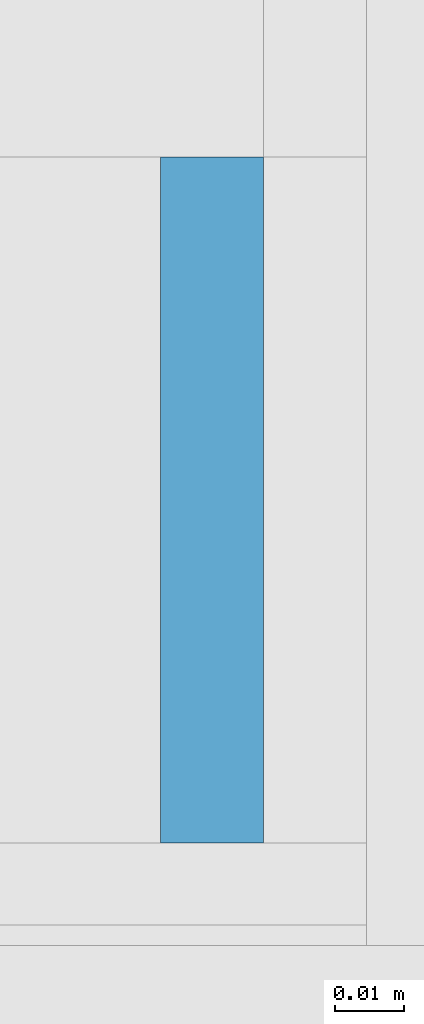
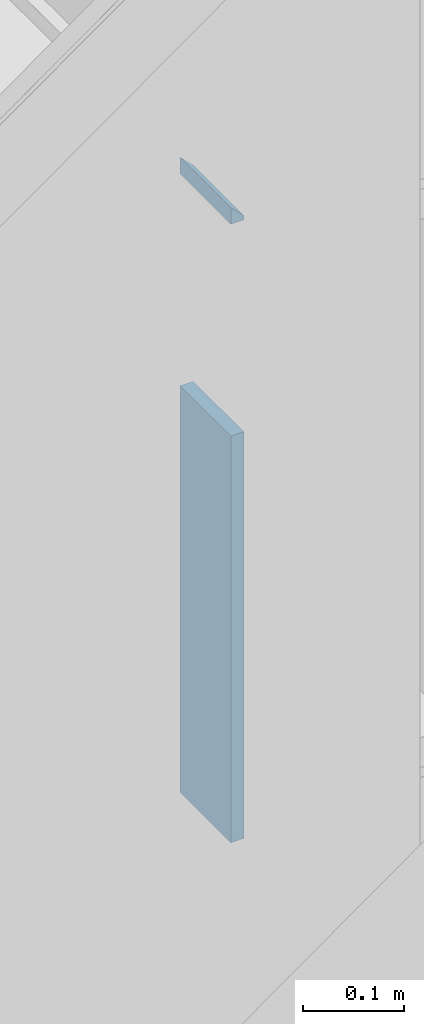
# One storey, part 192 of 583: 2 building element parts, 1 element without a shape of its own.
"""IFC2X3 building model written with IfcOpenShell, lengths in metres."""

from ifc_helpers import new_model, entity, si_unit, converted_unit, derived_unit, money_unit, direction, frame, frame_2d, origin_with_axes, place, context, subcontext, project, spatial, polyline, rectangle, outline, extrude, material, type_object, element, aggregate, save


model = new_model("IFC2X3")

# Units and contexts
model_context = context("Model", 3, precision=1e-05, world=origin_with_axes(), true_north=direction((0.0, 1.0)))
body_context = subcontext(model_context, "Body", "Model", "MODEL_VIEW", scale=1.0)
ifc_project = project(units=[si_unit("LENGTHUNIT", "METRE"), si_unit("AREAUNIT", "SQUARE_METRE"), si_unit("VOLUMEUNIT", "CUBIC_METRE"), si_unit("ABSORBEDDOSEUNIT", "GRAY"), si_unit("AMOUNTOFSUBSTANCEUNIT", "MOLE"), si_unit("DOSEEQUIVALENTUNIT", "SIEVERT"), si_unit("ELECTRICCAPACITANCEUNIT", "FARAD"), si_unit("ELECTRICCHARGEUNIT", "COULOMB"), si_unit("ELECTRICCONDUCTANCEUNIT", "SIEMENS"), si_unit("ELECTRICCURRENTUNIT", "AMPERE"), si_unit("ELECTRICRESISTANCEUNIT", "OHM"), si_unit("ELECTRICVOLTAGEUNIT", "VOLT"), si_unit("ENERGYUNIT", "JOULE"), si_unit("FORCEUNIT", "NEWTON"), si_unit("FREQUENCYUNIT", "HERTZ"), si_unit("ILLUMINANCEUNIT", "LUX"), si_unit("INDUCTANCEUNIT", "HENRY"), si_unit("LUMINOUSFLUXUNIT", "LUMEN"), si_unit("LUMINOUSINTENSITYUNIT", "CANDELA"), si_unit("MAGNETICFLUXDENSITYUNIT", "TESLA"), si_unit("MAGNETICFLUXUNIT", "WEBER"), si_unit("MASSUNIT", "GRAM"), converted_unit("PLANEANGLEUNIT", "degree", entity("IfcReal", 0.0174532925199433), si_unit("PLANEANGLEUNIT", "RADIAN"), dimensions=[0, 0, 0, 0, 0, 0, 0]), si_unit("POWERUNIT", "WATT"), si_unit("PRESSUREUNIT", "PASCAL"), si_unit("RADIOACTIVITYUNIT", "BECQUEREL"), si_unit("SOLIDANGLEUNIT", "STERADIAN"), si_unit("THERMODYNAMICTEMPERATUREUNIT", "KELVIN"), si_unit("TIMEUNIT", "SECOND"), derived_unit("ACCELERATIONUNIT", [(si_unit("LENGTHUNIT", "METRE"), 1), (si_unit("TIMEUNIT", "SECOND"), -2)]), derived_unit("ANGULARVELOCITYUNIT", [(converted_unit("PLANEANGLEUNIT", "degree", entity("IfcReal", 0.0174532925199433), si_unit("PLANEANGLEUNIT", "RADIAN"), dimensions=[0, 0, 0, 0, 0, 0, 0]), 1), (si_unit("TIMEUNIT", "SECOND"), -1)]), derived_unit("CURVATUREUNIT", [(converted_unit("PLANEANGLEUNIT", "degree", entity("IfcReal", 0.0174532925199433), si_unit("PLANEANGLEUNIT", "RADIAN"), dimensions=[0, 0, 0, 0, 0, 0, 0]), 1), (si_unit("LENGTHUNIT", "METRE"), -1)]), derived_unit("DYNAMICVISCOSITYUNIT", [(si_unit("PRESSUREUNIT", "PASCAL"), 1), (si_unit("TIMEUNIT", "SECOND"), 1)]), derived_unit("HEATFLUXDENSITYUNIT", [(si_unit("POWERUNIT", "WATT"), 1), (si_unit("LENGTHUNIT", "METRE"), -2)]), derived_unit("HEATINGVALUEUNIT", [(si_unit("ENERGYUNIT", "JOULE"), 1), (si_unit("MASSUNIT", "GRAM"), -1)]), derived_unit("INTEGERCOUNTRATEUNIT", [(si_unit("TIMEUNIT", "SECOND"), -1)]), derived_unit("IONCONCENTRATIONUNIT", [(si_unit("MASSUNIT", "GRAM"), 1), (si_unit("VOLUMEUNIT", "CUBIC_METRE"), -1)]), derived_unit("ISOTHERMALMOISTURECAPACITYUNIT", [(si_unit("VOLUMEUNIT", "CUBIC_METRE"), 1), (si_unit("MASSUNIT", "GRAM"), -1)]), derived_unit("KINEMATICVISCOSITYUNIT", [(si_unit("AREAUNIT", "SQUARE_METRE"), 1), (si_unit("TIMEUNIT", "SECOND"), -1)]), derived_unit("LINEARFORCEUNIT", [(si_unit("FORCEUNIT", "NEWTON"), 1), (si_unit("LENGTHUNIT", "METRE"), -1)]), derived_unit("LINEARMOMENTUNIT", [(si_unit("FORCEUNIT", "NEWTON"), 1), (si_unit("LENGTHUNIT", "METRE"), -1)]), derived_unit("LINEARSTIFFNESSUNIT", [(si_unit("FORCEUNIT", "NEWTON"), 1), (si_unit("LENGTHUNIT", "METRE"), -1)]), derived_unit("LINEARVELOCITYUNIT", [(si_unit("LENGTHUNIT", "METRE"), 1), (si_unit("TIMEUNIT", "SECOND"), -1)]), derived_unit("LUMINOUSINTENSITYDISTRIBUTIONUNIT", [(si_unit("LUMINOUSINTENSITYUNIT", "CANDELA"), 1), (si_unit("LUMINOUSFLUXUNIT", "LUMEN"), -1)]), derived_unit("MASSDENSITYUNIT", [(si_unit("MASSUNIT", "GRAM"), 1), (si_unit("VOLUMEUNIT", "CUBIC_METRE"), -1)]), derived_unit("MASSFLOWRATEUNIT", [(si_unit("MASSUNIT", "GRAM"), 1), (si_unit("TIMEUNIT", "SECOND"), -1)]), derived_unit("MASSPERLENGTHUNIT", [(si_unit("MASSUNIT", "GRAM"), 1), (si_unit("LENGTHUNIT", "METRE"), -1)]), derived_unit("MODULUSOFELASTICITYUNIT", [(si_unit("FORCEUNIT", "NEWTON"), 1), (si_unit("AREAUNIT", "SQUARE_METRE"), -1)]), derived_unit("MODULUSOFLINEARSUBGRADEREACTIONUNIT", [(si_unit("FORCEUNIT", "NEWTON"), 1), (si_unit("LENGTHUNIT", "METRE"), -2)]), derived_unit("MODULUSOFROTATIONALSUBGRADEREACTIONUNIT", [(si_unit("FORCEUNIT", "NEWTON"), 1), (si_unit("LENGTHUNIT", "METRE"), 1)]), derived_unit("MODULUSOFSUBGRADEREACTIONUNIT", [(si_unit("FORCEUNIT", "NEWTON"), 1), (si_unit("VOLUMEUNIT", "CUBIC_METRE"), -1)]), derived_unit("MOISTUREDIFFUSIVITYUNIT", [(si_unit("VOLUMEUNIT", "CUBIC_METRE"), 1), (si_unit("TIMEUNIT", "SECOND"), -1)]), derived_unit("MOLECULARWEIGHTUNIT", [(si_unit("MASSUNIT", "GRAM"), 1), (si_unit("AMOUNTOFSUBSTANCEUNIT", "MOLE"), -1)]), derived_unit("PLANARFORCEUNIT", [(si_unit("FORCEUNIT", "NEWTON"), 1), (si_unit("LENGTHUNIT", "METRE"), -2)]), derived_unit("ROTATIONALFREQUENCYUNIT", [(si_unit("TIMEUNIT", "SECOND"), -1)]), derived_unit("ROTATIONALMASSUNIT", [(si_unit("MASSUNIT", "GRAM"), 1), (si_unit("LENGTHUNIT", "METRE"), 2)]), derived_unit("ROTATIONALSTIFFNESSUNIT", [(si_unit("FORCEUNIT", "NEWTON"), 1), (si_unit("LENGTHUNIT", "METRE"), 1), (converted_unit("PLANEANGLEUNIT", "degree", entity("IfcReal", 0.0174532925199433), si_unit("PLANEANGLEUNIT", "RADIAN"), dimensions=[0, 0, 0, 0, 0, 0, 0]), -1)]), derived_unit("SECTIONAREAINTEGRALUNIT", [(si_unit("LENGTHUNIT", "METRE"), 5)]), derived_unit("SECTIONMODULUSUNIT", [(si_unit("LENGTHUNIT", "METRE"), 3)]), derived_unit("SHEARMODULUSUNIT", [(si_unit("FORCEUNIT", "NEWTON"), 1), (si_unit("AREAUNIT", "SQUARE_METRE"), -1)]), derived_unit("SOUNDPOWERUNIT", [(si_unit("ENERGYUNIT", "JOULE"), 1), (si_unit("TIMEUNIT", "SECOND"), -1)]), derived_unit("SPECIFICHEATCAPACITYUNIT", [(si_unit("FORCEUNIT", "NEWTON"), 1), (si_unit("MASSUNIT", "GRAM"), -1), (si_unit("THERMODYNAMICTEMPERATUREUNIT", "KELVIN"), -1)]), derived_unit("TEMPERATUREGRADIENTUNIT", [(si_unit("THERMODYNAMICTEMPERATUREUNIT", "KELVIN"), 1), (si_unit("LENGTHUNIT", "METRE"), -1)]), derived_unit("THERMALADMITTANCEUNIT", [(si_unit("POWERUNIT", "WATT"), 1), (si_unit("AREAUNIT", "SQUARE_METRE"), -1), (si_unit("THERMODYNAMICTEMPERATUREUNIT", "KELVIN"), -1)]), derived_unit("THERMALCONDUCTANCEUNIT", [(si_unit("POWERUNIT", "WATT"), 1), (si_unit("LENGTHUNIT", "METRE"), -1), (si_unit("THERMODYNAMICTEMPERATUREUNIT", "KELVIN"), -1)]), derived_unit("THERMALEXPANSIONCOEFFICIENTUNIT", [(si_unit("THERMODYNAMICTEMPERATUREUNIT", "KELVIN"), -1)]), derived_unit("THERMALRESISTANCEUNIT", [(si_unit("AREAUNIT", "SQUARE_METRE"), 1), (si_unit("POWERUNIT", "WATT"), -1)]), derived_unit("THERMALTRANSMITTANCEUNIT", [(si_unit("POWERUNIT", "WATT"), 1), (si_unit("AREAUNIT", "SQUARE_METRE"), -1), (si_unit("THERMODYNAMICTEMPERATUREUNIT", "KELVIN"), -1)]), derived_unit("TORQUEUNIT", [(si_unit("FORCEUNIT", "NEWTON"), 1), (si_unit("LENGTHUNIT", "METRE"), 1)]), derived_unit("VAPORPERMEABILITYUNIT", [(si_unit("MASSUNIT", "GRAM"), 1), (si_unit("TIMEUNIT", "SECOND"), -1)]), derived_unit("VOLUMETRICFLOWRATEUNIT", [(si_unit("VOLUMEUNIT", "CUBIC_METRE"), 1), (si_unit("TIMEUNIT", "SECOND"), -1)]), derived_unit("WARPINGCONSTANTUNIT", [(si_unit("LENGTHUNIT", "METRE"), 6)]), derived_unit("WARPINGMOMENTUNIT", [(si_unit("FORCEUNIT", "NEWTON"), 1), (si_unit("LENGTHUNIT", "METRE"), 2)]), money_unit("GBP")], contexts=[model_context])

# Site, building, storey
site_placement = place(None, origin_with_axes())
site = spatial("IfcSite", under=ifc_project, at=site_placement, Name="Site", CompositionType="ELEMENT")
building_placement = place(site_placement, origin_with_axes())
building = spatial("IfcBuilding", under=site, at=building_placement, Name="Building01", CompositionType="ELEMENT")
storey_placement = place(building_placement, frame((0.0, 0.0, 20.78), z_axis=(0.0, 0.0, 1.0), x_axis=(1.0, 0.0, 0.0)))
storey = spatial("IfcBuildingStorey", under=building, at=storey_placement, Name="RL", CompositionType="ELEMENT", Elevation=20.78)

# Wall, building element parts
wall_type = type_object("IfcWallType", Name="SHE_A-Walls_Type06f_ExternalWallInsulation_48+15mm", PredefinedType="NOTDEFINED")
wall_placement = place(storey_placement, frame((14.612, 5.15, -13.497), z_axis=(0.0, 1.0, 0.0), x_axis=(0.0, 0.0, -1.0)))
wall = element("IfcWall", 1, at=wall_placement, inside=storey, type_object=wall_type, Name="6F", ObjectType="SHE_A-Walls_Type06f_ExternalWallInsulation_48+15mm")
ifc_material = material(Name="A_BSUK_Walls_Timber")
placement = place(wall_placement, origin_with_axes())
building_element_part_1 = element("IfcBuildingElementPart", 2, at=placement, material=ifc_material, Name="2", context=body_context, shape_type="SweptSolid", body=[
    extrude(outline(polyline([(-0.021669, 0.06), (-0.042, 0.06), (-0.027, 0.045), (-0.021669, 0.045), (-0.021669, 0.06)])), frame((0.0, 0.0, 0.015), z_axis=(0.0, 0.0, 1.0), x_axis=(1.0, 0.0, 0.0)), (0.0, 0.0, 1.0), 0.1),
])
building_element_part_2 = element("IfcBuildingElementPart", 3, at=placement, material=ifc_material, Name="4", context=body_context, shape_type="SweptSolid", body=[
    extrude(rectangle(XDim=0.015, YDim=0.489793, at=frame_2d((0.478228, 0.0525), x_axis=(0.0, -1.0))), frame((0.0, 0.0, 0.015), z_axis=(0.0, 0.0, 1.0), x_axis=(1.0, 0.0, 0.0)), (0.0, 0.0, 1.0), 0.1),
])
aggregate(wall, [building_element_part_1, building_element_part_2])

save(model, "model.ifc")
